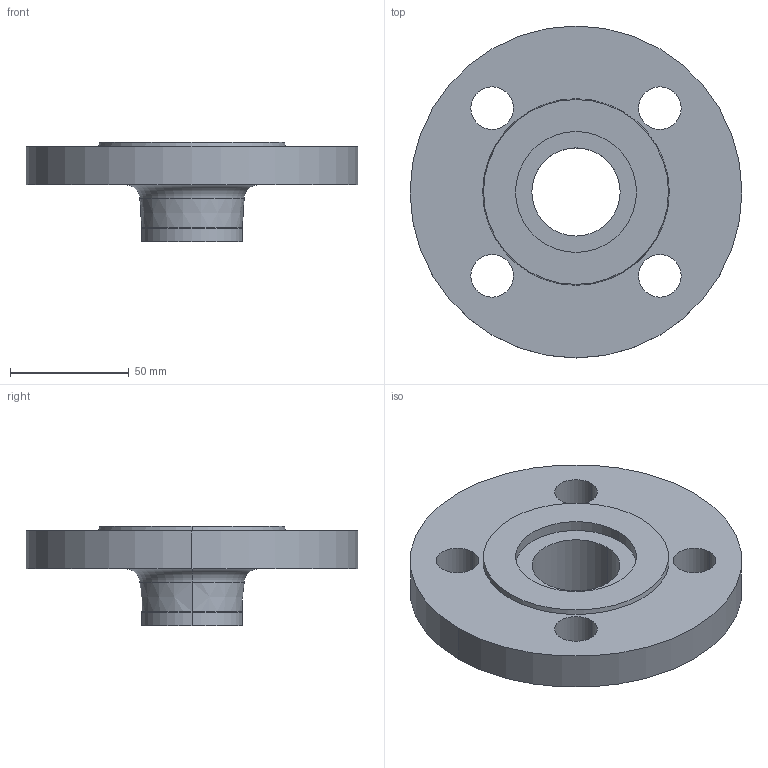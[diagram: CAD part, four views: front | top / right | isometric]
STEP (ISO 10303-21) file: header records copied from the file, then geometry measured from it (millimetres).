
FILE_DESCRIPTION (( 'STEP AP214' ), '1' );
FILE_NAME ('PN40 DN32 Type 11 - Type G Face.STEP', '2018-12-29T23:59:05', ( '' ), ( '' ), 'SwSTEP 2.0', 'SolidWorks 2019', '' );
FILE_SCHEMA (( 'AUTOMOTIVE_DESIGN' ));
Length unit declared in the file: millimetre
Products named in the file (1): PN40 DN32 Type 11 - Type G Face
Bounding box: 140 x 140 x 42 mm (x, y, z)
Volume: 226026.8 mm3; surface area: 45563.2 mm2
Topology: 1 solids, 1 shells, 29 faces, 66 edges, 42 vertices
Faces by surface type: cylinder 16, plane 5, torus 4, cone 4
Entity records: 892 total; most frequent: DIRECTION 172, CARTESIAN_POINT 138, ORIENTED_EDGE 132, AXIS2_PLACEMENT_3D 76, EDGE_CURVE 66, CIRCLE 46, EDGE_LOOP 42, VERTEX_POINT 42
